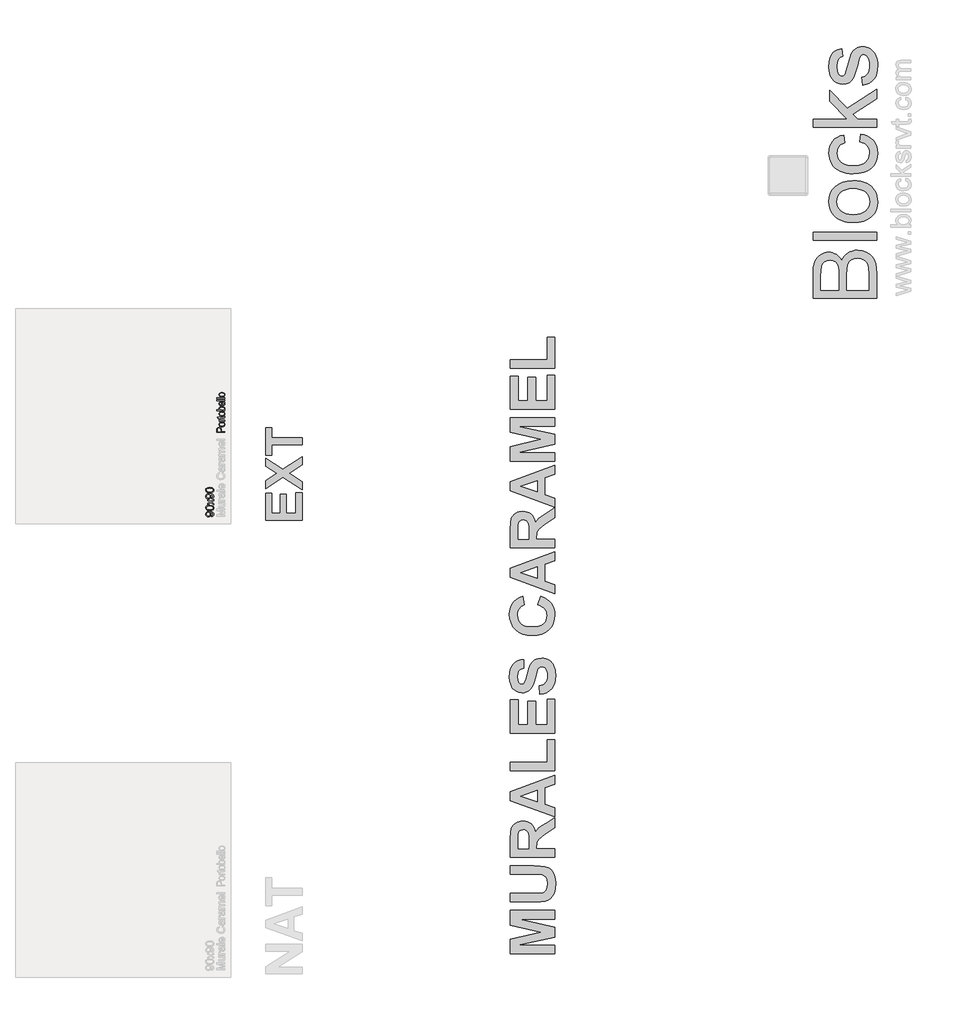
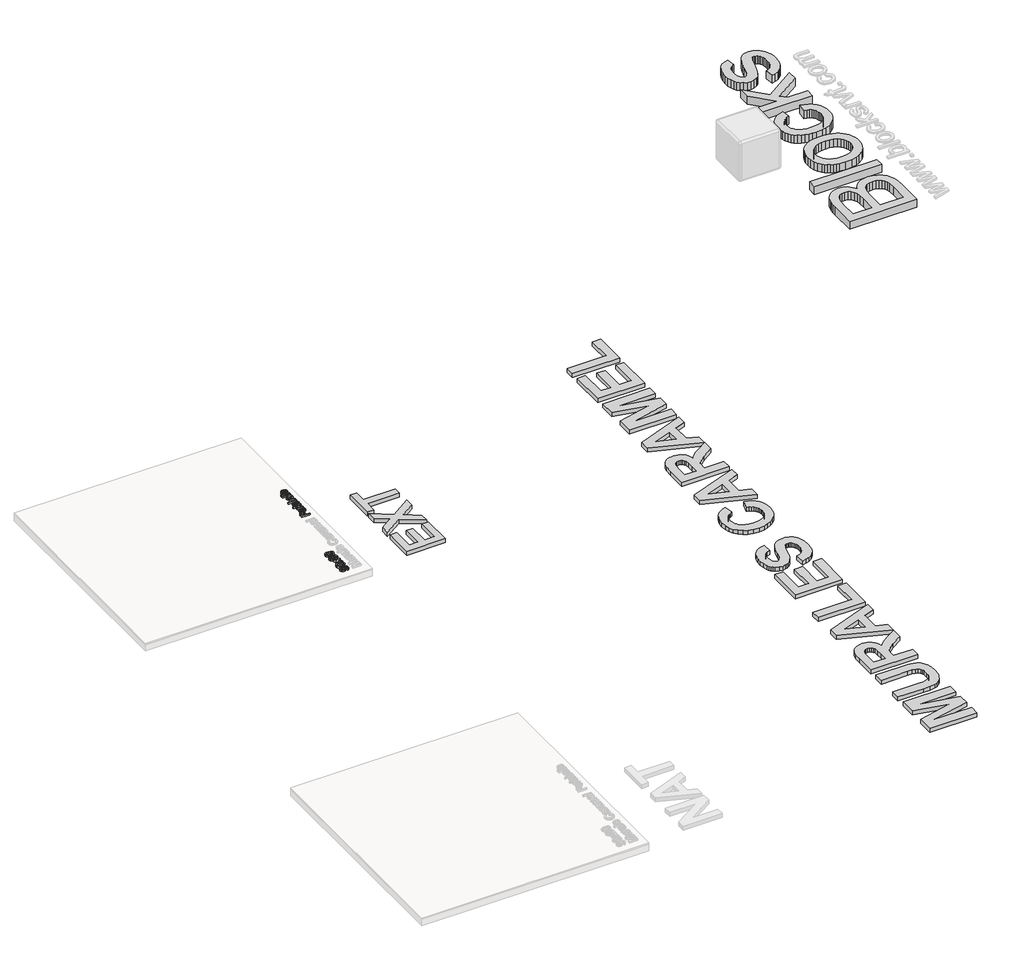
# One storey, part 20 of 21: 5 proxies.
"""IFC4 building model written with IfcOpenShell, lengths in millimetres."""

from ifc_helpers import new_model, si_unit, frame, origin, origin_with_axes, place, context, project, spatial, polyline, outline, extrude, element, save

model = new_model("IFC4")

# Units and contexts
model_context = context("Model", 3, world=origin())
ifc_project = project(units=[si_unit("LENGTHUNIT", "METRE", prefix="MILLI")], contexts=[model_context])

# Site, building, storey
site = spatial("IfcSite", under=ifc_project)
building = spatial("IfcBuilding", under=site)
storey = spatial("IfcBuildingStorey", under=building, Name="PORTOBELLO - SHOWROOM", Elevation=0.0)

# Proxies
placement = place(None, origin())
element("IfcBuildingElementProxy", 1, Name="10mm Arial", ObjectType="10mm Arial", at=placement, inside=storey, context=model_context, shape_type="SweptSolid", body=[
    extrude(outline(polyline([(28194.348432, 34966.7304206), (28192.7788021, 34979.2874593), (28204.7594925, 34984.9283166), (28208.4751006, 34995.6214199), (28206.0838676, 35005.7872257), (28199.6949837, 35012.6788818), (28188.7811511, 35016.7868974), (28174.2130241, 35018.6017819), (28171.7604775, 35018.5282055), (28181.2763584, 35008.485027), (28184.9306529, 34994.7139777), (28182.6988355, 34983.2636506), (28176.0033832, 34973.7324412), (28165.6597677, 34967.3037033), (28152.4834609, 34965.1607907), (28138.8718271, 34967.4079366), (28128.2032493, 34974.1493741), (28121.3054619, 34984.2753261), (28119.0061994, 34996.676015), (28124.2546492, 35014.5673427), (28139.2151837, 35026.8791268), (28167.3213681, 35031.0852443), (28197.8187855, 35026.8913895), (28207.8098473, 35021.6766622), (28215.0969765, 35014.4201899), (28219.5483487, 35005.4346721), (28221.0321394, 34995.0328087), (28219.2816342, 34984.2967858), (28214.0301187, 34975.7312667), (28205.6086867, 34969.7409216), (28194.348432, 34966.7304206)]), holes=[polyline([(28152.1891553, 35018.5282055), (28143.6788185, 35017.1731735), (28137.130519, 35013.1080774), (28132.9550584, 35006.7989012), (28131.5632382, 34998.7116287), (28133.0623573, 34990.3239192), (28137.5597147, 34983.6039414), (28144.4421737, 34979.1893575), (28153.0965976, 34977.7178295), (28160.855842, 34979.1096497), (28167.0147998, 34983.2851103), (28171.0339106, 34989.8395412), (28172.3736142, 34998.3682722), (28167.0147998, 35012.85056), (28160.6289815, 35017.1087941), (28152.1891553, 35018.5282055)])]), frame((0.0, 0.0, 18.0), z_axis=(0.0, 0.0, 1.0), x_axis=(1.0, 0.0, 0.0)), (0.0, 0.0, 1.0), 20.0),
    extrude(outline(polyline([(28170.0436948, 35042.0726532), (28141.1404328, 35045.7637359), (28124.4753784, 35056.7266193), (28119.0061994, 35075.0348799), (28122.2435609, 35089.7011088), (28131.5755009, 35099.8301264), (28146.4379335, 35105.7162383), (28170.0436948, 35107.9971067), (28198.8243296, 35104.3428122), (28215.5261722, 35093.416717), (28219.6556476, 35085.1853573), (28221.0321394, 35075.0348799), (28218.6409064, 35061.9873319), (28211.4672075, 35052.0790434), (28194.4771907, 35044.5742507), (28170.0436948, 35042.0726532)]), holes=[polyline([(28170.0191694, 35054.6296919), (28189.7713668, 35056.1012199), (28201.2032998, 35060.5158039), (28206.6571504, 35067.0886289), (28208.4751006, 35075.0348799), (28206.6510191, 35082.981131), (28201.1787744, 35089.553956), (28189.74071, 35093.96854), (28170.0191694, 35095.4400679), (28150.711496, 35094.0175909), (28139.1906582, 35089.7501598), (28133.4700932, 35083.1895975), (28131.5632382, 35074.8877271), (28133.2432326, 35067.0273152), (28138.2832159, 35060.7120076), (28150.5214236, 35056.1502709), (28170.0191694, 35054.6296919)])]), frame((0.0, 0.0, 18.0), z_axis=(0.0, 0.0, 1.0), x_axis=(1.0, 0.0, 0.0)), (0.0, 0.0, 1.0), 20.0),
    extrude(outline(polyline([(28219.4625095, 35114.2756261), (28182.355479, 35141.1064863), (28145.6899068, 35115.8452559), (28145.6899068, 35130.9038923), (28163.372768, 35143.0930491), (28171.6869011, 35148.8074827), (28164.8688214, 35153.7616269), (28145.6899068, 35167.6430409), (28145.6899068, 35182.7507281), (28182.3800044, 35156.2141735), (28219.4625095, 35181.7697095), (28219.4625095, 35166.6865477), (28197.1443352, 35151.2845548), (28193.0485823, 35148.4886516), (28219.4625095, 35129.3833134), (28219.4625095, 35114.2756261)])), frame((0.0, 0.0, 18.0), z_axis=(0.0, 0.0, 1.0), x_axis=(1.0, 0.0, 0.0)), (0.0, 0.0, 1.0), 20.0),
    extrude(outline(polyline([(28194.348432, 35191.1874886), (28192.7788021, 35203.7445273), (28204.7594925, 35209.3853846), (28208.4751006, 35220.0784879), (28206.0838676, 35230.2442937), (28199.6949837, 35237.1359498), (28188.7811511, 35241.2439654), (28174.2130241, 35243.0588499), (28171.7604775, 35242.9852735), (28181.2763584, 35232.942095), (28184.9306529, 35219.1710457), (28182.6988355, 35207.7207186), (28176.0033832, 35198.1895092), (28165.6597677, 35191.7607713), (28152.4834609, 35189.6178587), (28138.8718271, 35191.8650046), (28128.2032493, 35198.6064421), (28121.3054619, 35208.732394), (28119.0061994, 35221.133083), (28124.2546492, 35239.0244107), (28139.2151837, 35251.3361948), (28167.3213681, 35255.5423122), (28197.8187855, 35251.3484575), (28207.8098473, 35246.1337302), (28215.0969765, 35238.8772579), (28219.5483487, 35229.8917401), (28221.0321394, 35219.4898767), (28219.2816342, 35208.7538538), (28214.0301187, 35200.1883347), (28205.6086867, 35194.1979896), (28194.348432, 35191.1874886)]), holes=[polyline([(28152.1891553, 35242.9852735), (28143.6788185, 35241.6302415), (28137.130519, 35237.5651454), (28132.9550584, 35231.2559692), (28131.5632382, 35223.1686967), (28133.0623573, 35214.7809872), (28137.5597147, 35208.0610094), (28144.4421737, 35203.6464255), (28153.0965976, 35202.1748975), (28160.855842, 35203.5667177), (28167.0147998, 35207.7421783), (28171.0339106, 35214.2966092), (28172.3736142, 35222.8253401), (28167.0147998, 35237.307628), (28160.6289815, 35241.5658621), (28152.1891553, 35242.9852735)])]), frame((0.0, 0.0, 18.0), z_axis=(0.0, 0.0, 1.0), x_axis=(1.0, 0.0, 0.0)), (0.0, 0.0, 1.0), 20.0),
    extrude(outline(polyline([(28170.0436948, 35266.5297212), (28141.1404328, 35270.2208039), (28124.4753784, 35281.1836873), (28119.0061994, 35299.4919479), (28122.2435609, 35314.1581768), (28131.5755009, 35324.2871944), (28146.4379335, 35330.1733063), (28170.0436948, 35332.4541747), (28198.8243296, 35328.7998802), (28215.5261722, 35317.873785), (28219.6556476, 35309.6424253), (28221.0321394, 35299.4919479), (28218.6409064, 35286.4443998), (28211.4672075, 35276.5361114), (28194.4771907, 35269.0313187), (28170.0436948, 35266.5297212)]), holes=[polyline([(28170.0191694, 35279.0867599), (28189.7713668, 35280.5582879), (28201.2032998, 35284.9728719), (28206.6571504, 35291.5456968), (28208.4751006, 35299.4919479), (28206.6510191, 35307.438199), (28201.1787744, 35314.011024), (28189.74071, 35318.425608), (28170.0191694, 35319.8971359), (28150.711496, 35318.4746589), (28139.1906582, 35314.2072277), (28133.4700932, 35307.6466655), (28131.5632382, 35299.3447951), (28133.2432326, 35291.4843832), (28138.2832159, 35285.1690756), (28150.5214236, 35280.6073389), (28170.0191694, 35279.0867599)])]), frame((0.0, 0.0, 18.0), z_axis=(0.0, 0.0, 1.0), x_axis=(1.0, 0.0, 0.0)), (0.0, 0.0, 1.0), 20.0),
])
element("IfcBuildingElementProxy", 2, Name="10mm Arial Narrow", ObjectType="10mm Arial Narrow", at=placement, inside=storey, context=model_context, shape_type="SweptSolid", body=[
    extrude(outline(polyline([(28359.4625095, 36024.588476), (28258.7439058, 36024.588476), (28258.7439058, 36055.8853607), (28260.6222265, 36072.1810622), (28270.1026697, 36083.6540483), (28287.1217785, 36087.9437267), (28299.197604, 36086.1574183), (28308.8239978, 36080.7984931), (28315.1252562, 36071.0547043), (28317.2256757, 36056.1138051), (28317.2256757, 36034.3354376), (28359.4625095, 36034.3354376), (28359.4625095, 36024.588476)]), holes=[polyline([(28305.8542204, 36034.3354376), (28305.8542204, 36057.3067926), (28301.3234062, 36073.170988), (28287.6548155, 36078.1967651), (28277.4890391, 36075.7219506), (28271.6890892, 36069.7443218), (28270.115361, 36057.0783482), (28270.115361, 36034.3354376), (28305.8542204, 36034.3354376)])]), frame((0.0, 0.0, 18.0), z_axis=(0.0, 0.0, 1.0), x_axis=(1.0, 0.0, 0.0)), (0.0, 0.0, 1.0), 20.0),
    extrude(outline(polyline([(28322.9114033, 36096.0661948), (28306.3206278, 36098.0206637), (28294.368543, 36103.8840703), (28287.1439884, 36112.742637), (28284.7358035, 36123.6825861), (28287.1439884, 36134.4956217), (28294.368543, 36143.3795711), (28306.1302574, 36149.3191259), (28322.149922, 36151.2989775), (28339.3118085, 36149.3540271), (28351.4542637, 36143.5191761), (28358.6788183, 36134.6701279), (28361.0870031, 36123.6825861), (28358.6724726, 36112.821958), (28351.428881, 36103.9475271), (28339.4704505, 36098.0365278), (28322.9114033, 36096.0661948)]), holes=[polyline([(28322.8860206, 36105.8131564), (28335.437772, 36107.1171933), (28344.3090301, 36111.0293039), (28349.5822886, 36116.8705006), (28351.3400415, 36123.961796), (28349.5664244, 36130.6818691), (28344.2455733, 36136.3739424), (28335.358451, 36140.2574975), (28322.8860206, 36141.5520158), (28310.3723433, 36140.247979), (28301.5137766, 36136.3358684), (28296.240518, 36130.4946716), (28294.4827652, 36123.4033763), (28296.2500365, 36116.6357105), (28301.5518506, 36110.9531557), (28310.4199359, 36107.0981563), (28322.8860206, 36105.8131564)])]), frame((0.0, 0.0, 18.0), z_axis=(0.0, 0.0, 1.0), x_axis=(1.0, 0.0, 0.0)), (0.0, 0.0, 1.0), 20.0),
    extrude(outline(polyline([(28351.3400415, 36222.7766963), (28361.0870031, 36224.4011899), (28361.0870031, 36217.0402032), (28358.9675466, 36208.7654389), (28353.1675968, 36204.4503777), (28338.5217716, 36203.282773), (28296.1072588, 36203.282773), (28296.1072588, 36195.1603049), (28292.8582716, 36195.1603049), (28297.7317524, 36193.5358113), (28296.1072588, 36185.9717629), (28298.429777, 36179.8926033), (28304.9150601, 36176.0217396), (28320.3223666, 36174.041888), (28359.4625095, 36174.041888), (28359.4625095, 36164.2949264), (28286.3602971, 36164.2949264), (28286.3602971, 36174.041888), (28296.0564934, 36174.041888), (28286.9694822, 36180.2860353), (28284.7358035, 36186.6824789), (28286.3602971, 36195.1603049), (28286.3602971, 36203.282773), (28270.115361, 36203.282773), (28261.992893, 36213.0297346), (28286.3602971, 36213.0297346), (28286.3602971, 36222.7766963), (28296.1072588, 36222.7766963), (28296.1072588, 36213.0297346), (28340.7554503, 36213.0297346), (28348.7510048, 36213.8927468), (28351.3400415, 36218.5124006), (28351.3400415, 36222.7766963)])), frame((0.0, 0.0, 18.0), z_axis=(0.0, 0.0, 1.0), x_axis=(1.0, 0.0, 0.0)), (0.0, 0.0, 1.0), 20.0),
    extrude(outline(polyline([(28322.9114033, 36229.2746707), (28306.3206278, 36231.2291396), (28294.368543, 36237.0925462), (28287.1439884, 36245.9511129), (28284.7358035, 36256.8910621), (28287.1439884, 36267.7040976), (28294.368543, 36276.5880471), (28306.1302574, 36282.5276018), (28322.149922, 36284.5074534), (28339.3118085, 36282.5625031), (28351.4542637, 36276.727652), (28358.6788183, 36267.8786038), (28361.0870031, 36256.8910621), (28358.6724726, 36246.0304339), (28351.428881, 36237.156003), (28339.4704505, 36231.2450038), (28322.9114033, 36229.2746707)]), holes=[polyline([(28322.8860206, 36239.0216324), (28335.437772, 36240.3256692), (28344.3090301, 36244.2377798), (28349.5822886, 36250.0789766), (28351.3400415, 36257.1702719), (28349.5664244, 36263.8903451), (28344.2455733, 36269.5824184), (28335.358451, 36273.4659734), (28322.8860206, 36274.7604918), (28310.3723433, 36273.4564549), (28301.5137766, 36269.5443443), (28296.240518, 36263.7031476), (28294.4827652, 36256.6118522), (28296.2500365, 36249.8441865), (28301.5518506, 36244.1616317), (28310.4199359, 36240.3066322), (28322.8860206, 36239.0216324)])]), frame((0.0, 0.0, 18.0), z_axis=(0.0, 0.0, 1.0), x_axis=(1.0, 0.0, 0.0)), (0.0, 0.0, 1.0), 20.0),
    extrude(outline(polyline([(28359.4625095, 36307.2503639), (28359.4625095, 36297.5034023), (28258.7439058, 36297.5034023), (28258.7439058, 36307.2503639), (28294.1527899, 36307.2503639), (28287.0710131, 36314.6494247), (28284.7358035, 36323.850658), (28288.9366425, 36336.7323847), (28301.6660729, 36346.0097661), (28322.3529837, 36349.4871978), (28338.8073271, 36347.5549388), (28351.0100662, 36341.7581618), (28358.5677689, 36333.3850394), (28361.0870031, 36323.7237444), (28358.4725837, 36314.3829062), (28350.7054737, 36307.2503639), (28359.4625095, 36307.2503639)]), holes=[polyline([(28322.3529837, 36307.2503639), (28339.6005369, 36309.3317464), (28348.33219, 36315.2205357), (28351.3400415, 36323.672979), (28349.5505602, 36329.6157066), (28344.1821165, 36334.8540639), (28322.7591071, 36339.7402361), (28301.3234062, 36335.0317429), (28296.1929254, 36329.7870399), (28294.4827652, 36323.4699173), (28296.2722464, 36317.4922885), (28301.6406901, 36312.1999929), (28322.3529837, 36307.2503639)])]), frame((0.0, 0.0, 18.0), z_axis=(0.0, 0.0, 1.0), x_axis=(1.0, 0.0, 0.0)), (0.0, 0.0, 1.0), 20.0),
    extrude(outline(polyline([(28336.719599, 36401.4709933), (28338.3440926, 36411.2179549), (28348.2306592, 36407.5184245), (28355.3505101, 36401.6994377), (28359.6528799, 36393.9957844), (28361.0870031, 36384.6422548), (28358.6724726, 36373.0487008), (28351.428881, 36363.9045785), (28339.6227468, 36357.9650238), (28323.5205884, 36355.9851722), (28306.8536647, 36357.9745423), (28294.6731355, 36363.9426526), (28287.2201365, 36372.9566884), (28284.7358035, 36384.0838351), (28287.1344699, 36394.7667843), (28294.3304689, 36403.5143016), (28306.0699735, 36409.3491527), (28322.0991565, 36411.294103), (28325.3481437, 36411.2179549), (28325.3481437, 36365.7321339), (28344.7913016, 36371.7351454), (28349.7028565, 36377.6651816), (28351.3400415, 36384.7691683), (28347.6849309, 36394.9476361), (28336.719599, 36401.4709933)]), holes=[polyline([(28315.6011821, 36366.3920844), (28315.6011821, 36401.4709933), (28301.3360976, 36397.2066975), (28296.1960983, 36391.381365), (28294.4827652, 36384.1599832), (28300.1938755, 36371.9508985), (28315.6011821, 36366.3920844)])]), frame((0.0, 0.0, 18.0), z_axis=(0.0, 0.0, 1.0), x_axis=(1.0, 0.0, 0.0)), (0.0, 0.0, 1.0), 20.0),
    extrude(outline(polyline([(28359.4625095, 36424.2139038), (28258.7439058, 36424.2139038), (28258.7439058, 36433.9608654), (28359.4625095, 36433.9608654), (28359.4625095, 36424.2139038)])), frame((0.0, 0.0, 18.0), z_axis=(0.0, 0.0, 1.0), x_axis=(1.0, 0.0, 0.0)), (0.0, 0.0, 1.0), 20.0),
    extrude(outline(polyline([(28359.4625095, 36450.2058015), (28258.7439058, 36450.2058015), (28258.7439058, 36459.9527632), (28359.4625095, 36459.9527632), (28359.4625095, 36450.2058015)])), frame((0.0, 0.0, 18.0), z_axis=(0.0, 0.0, 1.0), x_axis=(1.0, 0.0, 0.0)), (0.0, 0.0, 1.0), 20.0),
    extrude(outline(polyline([(28322.9114033, 36471.3242184), (28306.3206278, 36473.2786873), (28294.368543, 36479.1420939), (28287.1439884, 36488.0006606), (28284.7358035, 36498.9406098), (28287.1439884, 36509.7536454), (28294.368543, 36518.6375948), (28306.1302574, 36524.5771496), (28322.149922, 36526.5570011), (28339.3118085, 36524.6120508), (28351.4542637, 36518.7771997), (28358.6788183, 36509.9281515), (28361.0870031, 36498.9406098), (28358.6724726, 36488.0799816), (28351.428881, 36479.2055507), (28339.4704505, 36473.2945515), (28322.9114033, 36471.3242184)]), holes=[polyline([(28322.8860206, 36481.0711801), (28335.437772, 36482.375217), (28344.3090301, 36486.2873275), (28349.5822886, 36492.1285243), (28351.3400415, 36499.2198196), (28349.5664244, 36505.9398928), (28344.2455733, 36511.6319661), (28335.358451, 36515.5155211), (28322.8860206, 36516.8100395), (28310.3723433, 36515.5060026), (28301.5137766, 36511.593892), (28296.240518, 36505.7526953), (28294.4827652, 36498.6614), (28296.2500365, 36491.8937342), (28301.5518506, 36486.2111794), (28310.4199359, 36482.3561799), (28322.8860206, 36481.0711801)])]), frame((0.0, 0.0, 18.0), z_axis=(0.0, 0.0, 1.0), x_axis=(1.0, 0.0, 0.0)), (0.0, 0.0, 1.0), 20.0),
])
element("IfcBuildingElementProxy", 3, Name="450mm Arial", ObjectType="450mm Arial", at=placement, inside=storey, context=model_context, shape_type="SweptSolid", body=[
    extrude(outline(polyline([(29329.6729671, 34919.1171638), (28870.5562371, 34919.1171638), (28870.5562371, 35261.6328195), (28950.7194757, 35261.6328195), (28950.7194757, 35006.5679695), (29052.7454157, 35006.5679695), (29052.7454157, 35247.0576852), (29132.9086542, 35247.0576852), (29132.9086542, 35006.5679695), (29249.5097285, 35006.5679695), (29249.5097285, 35268.9203867), (29329.6729671, 35268.9203867), (29329.6729671, 34919.1171638)])), origin_with_axes(), (0.0, 0.0, 1.0), 50.0),
    extrude(outline(polyline([(29329.6729671, 35301.7144388), (29088.8416467, 35458.2832641), (28870.5562371, 35316.2895731), (28870.5562371, 35418.5432496), (29010.2725634, 35509.4101024), (28870.5562371, 35600.163087), (28870.5562371, 35702.5306317), (29088.9555149, 35560.5369406), (29329.6729671, 35717.1057659), (29329.6729671, 35614.8520895), (29167.6384664, 35509.4101024), (29329.6729671, 35404.0819835), (29329.6729671, 35301.7144388)])), origin_with_axes(), (0.0, 0.0, 1.0), 50.0),
    extrude(outline(polyline([(29329.6729671, 35866.5008924), (28950.7194757, 35866.5008924), (28950.7194757, 35735.3246838), (28870.5562371, 35735.3246838), (28870.5562371, 36085.1279066), (28950.7194757, 36085.1279066), (28950.7194757, 35953.9516981), (29329.6729671, 35953.9516981), (29329.6729671, 35866.5008924)])), origin_with_axes(), (0.0, 0.0, 1.0), 50.0),
])
element("IfcBuildingElementProxy", 4, Name="550mm Arial", ObjectType="550mm Arial", at=placement, inside=storey, context=model_context, shape_type="SweptSolid", body=[
    extrude(outline(polyline([(32506.24187, 29473.3939829), (31945.0992, 29473.3939829), (31945.0992, 29656.2663709), (32327.8229952, 29745.0582914), (31945.0992, 29833.5718673), (31945.0992, 30016.7225999), (32506.24187, 30016.7225999), (32506.24187, 29909.8382818), (32064.5090241, 29905.3847686), (32506.24187, 29807.6858215), (32506.24187, 29682.7091059), (32064.5090241, 29584.7318143), (32506.24187, 29580.278301), (32506.24187, 29473.3939829)])), origin_with_axes(), (0.0, 0.0, 1.0), 50.0),
    extrude(outline(polyline([(31945.0992, 30123.606918), (31945.0992, 30230.4912361), (32247.798929, 30230.4912361), (32307.2254964, 30231.6394075), (32341.3227073, 30235.0839216), (32372.2015589, 30248.4792545), (32396.3653477, 30272.799612), (32405.4680852, 30289.056675), (32411.9700406, 30308.0449942), (32417.1716049, 30354.2154012), (32412.2657817, 30400.3336185), (32406.1335027, 30418.5260462), (32397.5483121, 30433.4740198), (32375.6808662, 30454.8195697), (32349.3251139, 30465.5532325), (32311.2788894, 30469.624022), (32254.3400265, 30470.9809518), (31945.0992, 30470.9809518), (31945.0992, 30577.8652699), (32239.4485916, 30577.8652699), (32325.6310317, 30575.534134), (32382.100188, 30568.5407265), (32420.4943433, 30555.284566), (32452.4517802, 30534.1651711), (32478.2508433, 30504.8868007), (32498.1698772, 30467.1537138), (32510.9041416, 30418.7739468), (32515.1488965, 30357.5555361), (32510.5214179, 30285.8470141), (32504.7370696, 30257.3775827), (32496.638982, 30233.831371), (32475.3456218, 30196.0808876), (32448.48537, 30167.1678445), (32418.1110178, 30146.8486903), (32386.2753567, 30134.8798734), (32326.6400308, 30126.4251568), (32244.0412771, 30123.606918), (31945.0992, 30123.606918)])), origin_with_axes(), (0.0, 0.0, 1.0), 50.0),
    extrude(outline(polyline([(32506.24187, 30684.749588), (31945.0992, 30684.749588), (31945.0992, 30920.7857904), (31948.8916449, 30997.6784802), (31960.2689795, 31050.2160194), (31969.3325748, 31069.3870022), (31981.3535813, 31086.5399868), (31996.3319989, 31101.6749733), (32014.2678277, 31114.7919615), (32034.3869218, 31125.386452), (32055.9151352, 31132.9539453), (32078.8524682, 31137.4944412), (32103.1989205, 31139.0079398), (32133.5471778, 31136.8203254), (32161.1293859, 31130.2574822), (32185.9455447, 31119.3194101), (32207.9956542, 31104.0061091), (32226.7491202, 31084.3349759), (32241.6753482, 31060.3234069), (32252.7743383, 31031.9714021), (32260.0460904, 30999.2789615), (32282.3832428, 31030.2795889), (32306.8079796, 31055.3653941), (32342.1925341, 31081.321026), (32397.4091398, 31114.9311338), (32506.24187, 31183.5430724), (32506.24187, 31058.705529), (32378.0641916, 30977.4289121), (32302.0065356, 30913.6184175), (32288.8025647, 30895.9087437), (32280.5044169, 30877.1552778), (32276.1204898, 30852.2608345), (32274.6591808, 30816.1282289), (32274.6591808, 30791.6339061), (32506.24187, 30791.6339061), (32506.24187, 30684.749588)]), holes=[polyline([(32176.6818892, 30791.6339061), (32176.6818892, 30879.7299651), (32175.0640113, 30949.2639201), (32170.2103777, 30986.6838693), (32161.4077304, 31005.7156799), (32147.9428115, 31020.0852187), (32130.1809481, 31029.114021), (32108.4874675, 31032.1236218), (32084.4628511, 31028.1572115), (32065.5528163, 31016.2579808), (32052.209673, 30997.121791), (32044.8857313, 30971.4445037), (32043.0764916, 30884.6009952), (32043.0764916, 30791.6339061), (32176.6818892, 30791.6339061)])]), origin_with_axes(), (0.0, 0.0, 1.0), 50.0),
    extrude(outline(polyline([(32506.24187, 31717.9646628), (32506.24187, 31605.6526255), (32381.5434989, 31561.6741821), (32381.5434989, 31349.853958), (32506.24187, 31306.4322037), (32506.24187, 31192.4500989), (31945.0992, 31397.033364), (31945.0992, 31511.1546411), (32506.24187, 31717.9646628)]), holes=[polyline([(32283.5662073, 31527.437799), (32078.7045976, 31455.2073809), (32283.5662073, 31383.9511688), (32283.5662073, 31527.437799)])]), origin_with_axes(), (0.0, 0.0, 1.0), 50.0),
    extrude(outline(polyline([(32506.24187, 31771.4068219), (31945.0992, 31771.4068219), (31945.0992, 31878.29114), (32408.2645784, 31878.29114), (32408.2645784, 32163.3159882), (32506.24187, 32163.3159882), (32506.24187, 31771.4068219)])), origin_with_axes(), (0.0, 0.0, 1.0), 50.0),
    extrude(outline(polyline([(32506.24187, 32243.4792268), (31945.0992, 32243.4792268), (31945.0992, 32662.1094726), (32043.0764916, 32662.1094726), (32043.0764916, 32350.3635449), (32167.7748627, 32350.3635449), (32167.7748627, 32644.2954196), (32265.7521543, 32644.2954196), (32265.7521543, 32350.3635449), (32408.2645784, 32350.3635449), (32408.2645784, 32671.0164991), (32506.24187, 32671.0164991), (32506.24187, 32243.4792268)])), origin_with_axes(), (0.0, 0.0, 1.0), 50.0),
    extrude(outline(polyline([(32319.1943133, 32733.3656847), (32310.2872868, 32840.2500028), (32336.0167638, 32846.7215142), (32358.0929681, 32855.8372992), (32376.5158999, 32867.5973576), (32391.2855591, 32882.0016895), (32402.6107041, 32899.0937863), (32410.7000934, 32918.9171393), (32415.553727, 32941.4717484), (32417.1716049, 32966.7576137), (32415.7407398, 32993.3308226), (32411.4481445, 33016.4073278), (32404.293819, 33035.9871293), (32394.2777633, 33052.0702269), (32382.3480887, 33064.6131295), (32369.4529062, 33073.5723456), (32355.5922161, 33078.9478753), (32340.7660181, 33080.7397185), (32322.5866379, 33077.7649108), (32307.2950826, 33068.8404878), (32294.3694562, 33052.4703473), (32283.2878627, 33027.1583872), (32259.4894012, 32934.4696426), (32247.8772134, 32891.4480087), (32234.8906991, 32855.3501962), (32220.5298585, 32826.176205), (32204.7946916, 32803.9260353), (32180.4308427, 32780.8495301), (32153.5444961, 32764.3663121), (32124.1356517, 32754.4763813), (32092.2043096, 32751.1797377), (32050.8701398, 32757.2337323), (32012.3194157, 32775.395716), (31994.8445951, 32788.8432385), (31979.5791346, 32804.9698275), (31966.5230343, 32823.7754831), (31955.676294, 32845.2602052), (31941.0632036, 32895.6057808), (31936.1921735, 32955.3454859), (31939.227869, 33004.764696), (31948.3349557, 33047.6689033), (31963.5134335, 33084.0581078), (31984.7633024, 33113.9323095), (32011.0755633, 33137.3871893), (32041.4412172, 33154.5184283), (32075.8602639, 33165.3260264), (32114.3327036, 33169.8099836), (32114.3327036, 33062.9256655), (32077.6086158, 33051.1134174), (32063.7479256, 33041.9845851), (32052.888138, 33030.7072805), (32044.6987186, 33016.8117973), (32038.8491333, 32999.8284289), (32034.1694651, 32956.5980365), (32039.1448744, 32911.088698), (32045.3641361, 32892.5091974), (32054.0711024, 32876.7131426), (32069.0321235, 32862.7263275), (32088.3074856, 32858.0640558), (32106.5042624, 32862.3088106), (32121.8480072, 32875.0430751), (32130.7593829, 32889.6779111), (32139.8186291, 32912.0107144), (32158.3807332, 32979.7702227), (32177.6908883, 33052.0876235), (32197.9056633, 33102.7289402), (32222.3825896, 33138.2178739), (32254.4791988, 33165.0781257), (32273.4849146, 33174.9419617), (32294.5956112, 33181.9875589), (32343.131947, 33187.6240366), (32366.686857, 33185.9583183), (32389.4763193, 33180.9611632), (32411.5003341, 33172.6325716), (32432.7589013, 33160.9725432), (32452.2952114, 33146.2637719), (32469.1524549, 33128.7889513), (32483.3306319, 33108.5480815), (32494.8297422, 33085.5411625), (32503.7193722, 33059.6507676), (32510.0691079, 33030.7594701), (32515.1488965, 32963.9741679), (32512.0218691, 32914.0287126), (32502.640787, 32870.2416311), (32487.0056501, 32832.6129234), (32465.1164585, 32801.1425895), (32437.2341602, 32775.6131727), (32403.6197032, 32755.8072163), (32364.2730876, 32741.7247203), (32319.1943133, 32733.3656847)])), origin_with_axes(), (0.0, 0.0, 1.0), 50.0),
    extrude(outline(polyline([(32292.4732338, 33855.6510247), (32328.1013398, 33962.5353427), (32370.3618752, 33947.7743818), (32406.8206659, 33928.8208557), (32437.4777117, 33905.6747643), (32462.3330127, 33878.3361078), (32481.5431378, 33846.9179635), (32495.2646557, 33811.533409), (32503.4975664, 33772.1824442), (32506.24187, 33728.8650692), (32501.5535035, 33675.3446258), (32487.488404, 33626.8169882), (32464.0465715, 33583.2821565), (32431.2280061, 33544.7401306), (32390.27656, 33513.2002106), (32342.4360856, 33490.6716963), (32287.7065829, 33477.1545877), (32226.0880518, 33472.6488848), (32161.1119893, 33477.1937299), (32103.8251958, 33490.8282651), (32054.2276712, 33513.5524904), (32012.3194157, 33545.3664059), (31979.0137472, 33584.5912458), (31955.223984, 33629.5482443), (31940.9501261, 33680.2374015), (31936.1921735, 33736.6587174), (31940.1150924, 33785.9952939), (31951.8838491, 33830.4608403), (31971.4984436, 33870.0553566), (31998.9588759, 33904.7788427), (32019.4954868, 33922.8451455), (32044.0854907, 33938.4933298), (32072.7288874, 33951.7233955), (32105.4256771, 33962.5353427), (32123.2397301, 33855.6510247), (32103.6642778, 33848.914216), (32086.2720908, 33839.2808841), (32071.0631691, 33826.751029), (32058.0375127, 33811.3246506), (32047.5952418, 33793.5410415), (32040.136477, 33773.9394944), (32035.661218, 33752.5200092), (32034.1694651, 33729.2825861), (32036.8789756, 33697.5208602), (32045.0075071, 33668.8992091), (32058.5550596, 33643.4176328), (32077.5216331, 33621.0761312), (32102.5508995, 33602.9011001), (32134.2865306, 33589.918935), (32172.7285263, 33582.1296359), (32217.8768868, 33579.5332029), (32265.6651716, 33582.0513515), (32306.042532, 33589.6057973), (32339.008968, 33602.1965404), (32364.5644796, 33619.8235806), (32383.6832728, 33641.4866173), (32397.3395537, 33666.1853495), (32405.5333222, 33693.9197772), (32408.2645784, 33724.6899005), (32406.5205756, 33747.5967895), (32401.2885674, 33768.8597058), (32392.5685536, 33788.4786495), (32380.3605344, 33806.4536204), (32364.4035616, 33822.3931967), (32344.4366873, 33835.9059561), (32320.4599113, 33846.9918988), (32292.4732338, 33855.6510247)])), origin_with_axes(), (0.0, 0.0, 1.0), 50.0),
    extrude(outline(polyline([(32506.24187, 34523.6780127), (32506.24187, 34411.3659754), (32381.5434989, 34367.387532), (32381.5434989, 34155.5673078), (32506.24187, 34112.1455536), (32506.24187, 33998.1634488), (31945.0992, 34202.7467139), (31945.0992, 34316.867991), (32506.24187, 34523.6780127)]), holes=[polyline([(32283.5662073, 34333.1511488), (32078.7045976, 34260.9207307), (32283.5662073, 34189.6645187), (32283.5662073, 34333.1511488)])]), origin_with_axes(), (0.0, 0.0, 1.0), 50.0),
    extrude(outline(polyline([(32506.24187, 34577.1201718), (31945.0992, 34577.1201718), (31945.0992, 34813.1563742), (31948.8916449, 34890.049064), (31960.2689795, 34942.5866032), (31969.3325748, 34961.757586), (31981.3535813, 34978.9105706), (31996.3319989, 34994.0455571), (32014.2678277, 35007.1625453), (32034.3869218, 35017.7570358), (32055.9151352, 35025.3245291), (32078.8524682, 35029.865025), (32103.1989205, 35031.3785237), (32133.5471778, 35029.1909092), (32161.1293859, 35022.628066), (32185.9455447, 35011.6899939), (32207.9956542, 34996.3766929), (32226.7491202, 34976.7055597), (32241.6753482, 34952.6939907), (32252.7743383, 34924.3419859), (32260.0460904, 34891.6495453), (32282.3832428, 34922.6501727), (32306.8079796, 34947.7359779), (32342.1925341, 34973.6916098), (32397.4091398, 35007.3017176), (32506.24187, 35075.9136562), (32506.24187, 34951.0761128), (32378.0641916, 34869.7994959), (32302.0065356, 34805.9890013), (32288.8025647, 34788.2793275), (32280.5044169, 34769.5258616), (32276.1204898, 34744.6314183), (32274.6591808, 34708.4988128), (32274.6591808, 34684.0044899), (32506.24187, 34684.0044899), (32506.24187, 34577.1201718)]), holes=[polyline([(32176.6818892, 34684.0044899), (32176.6818892, 34772.1005489), (32175.0640113, 34841.6345039), (32170.2103777, 34879.0544531), (32161.4077304, 34898.0862637), (32147.9428115, 34912.4558025), (32130.1809481, 34921.4846048), (32108.4874675, 34924.4942056), (32084.4628511, 34920.5277953), (32065.5528163, 34908.6285646), (32052.209673, 34889.4923748), (32044.8857313, 34863.8150875), (32043.0764916, 34776.971579), (32043.0764916, 34684.0044899), (32176.6818892, 34684.0044899)])]), origin_with_axes(), (0.0, 0.0, 1.0), 50.0),
    extrude(outline(polyline([(32506.24187, 35610.3352466), (32506.24187, 35498.0232093), (32381.5434989, 35454.0447659), (32381.5434989, 35242.2245418), (32506.24187, 35198.8027875), (32506.24187, 35084.8206827), (31945.0992, 35289.4039478), (31945.0992, 35403.5252249), (32506.24187, 35610.3352466)]), holes=[polyline([(32283.5662073, 35419.8083828), (32078.7045976, 35347.5779647), (32283.5662073, 35276.3217526), (32283.5662073, 35419.8083828)])]), origin_with_axes(), (0.0, 0.0, 1.0), 50.0),
    extrude(outline(polyline([(32506.24187, 35663.7774057), (31945.0992, 35663.7774057), (31945.0992, 35846.6497937), (32327.8229952, 35935.4417142), (31945.0992, 36023.9552901), (31945.0992, 36207.1060227), (32506.24187, 36207.1060227), (32506.24187, 36100.2217046), (32064.5090241, 36095.7681913), (32506.24187, 35998.0692443), (32506.24187, 35873.0925286), (32064.5090241, 35775.115237), (32506.24187, 35770.6617238), (32506.24187, 35663.7774057)])), origin_with_axes(), (0.0, 0.0, 1.0), 50.0),
    extrude(outline(polyline([(32506.24187, 36313.9903407), (31945.0992, 36313.9903407), (31945.0992, 36732.6205866), (32043.0764916, 36732.6205866), (32043.0764916, 36420.8746588), (32167.7748627, 36420.8746588), (32167.7748627, 36714.8065336), (32265.7521543, 36714.8065336), (32265.7521543, 36420.8746588), (32408.2645784, 36420.8746588), (32408.2645784, 36741.5276131), (32506.24187, 36741.5276131), (32506.24187, 36313.9903407)])), origin_with_axes(), (0.0, 0.0, 1.0), 50.0),
    extrude(outline(polyline([(32506.24187, 36830.5978782), (31945.0992, 36830.5978782), (31945.0992, 36937.4821963), (32408.2645784, 36937.4821963), (32408.2645784, 37222.5070445), (32506.24187, 37222.5070445), (32506.24187, 36830.5978782)])), origin_with_axes(), (0.0, 0.0, 1.0), 50.0),
])
element("IfcBuildingElementProxy", 5, Name="80mm Arial", ObjectType="80mm Arial", at=placement, inside=storey, context=model_context, shape_type="SweptSolid", body=[
    extrude(outline(polyline([(36549.5235049, 37712.6052266), (35750.1348066, 37712.6052266), (35750.1348066, 38017.6453964), (35751.6046298, 38061.892566), (35756.0140997, 38101.5412013), (35763.363216, 38136.5913024), (35773.651979, 38167.0428692), (35786.9901678, 38193.670456), (35803.4875618, 38217.248617), (35823.144161, 38237.777352), (35845.9599655, 38255.2566611), (35870.6481174, 38269.2169328), (35895.9217591, 38279.1885555), (35921.7808906, 38285.171529), (35948.2255118, 38287.1658536), (35972.6514132, 38285.4886693), (35996.35765, 38280.4571166), (36019.3442223, 38272.0711955), (36041.61113, 38260.3309058), (36062.4631042, 38245.1996546), (36081.2048757, 38226.6408487), (36097.8364445, 38204.6544881), (36112.3578105, 38179.2405728), (36125.21419, 38209.3993947), (36141.9250439, 38235.8623125), (36162.490372, 38258.6293262), (36186.9101745, 38277.7004356), (36214.4403913, 38292.7706983), (36244.3369627, 38303.5351717), (36276.5998885, 38309.9938557), (36311.2291688, 38312.1467504), (36366.9726739, 38306.2674573), (36418.6665415, 38288.629578), (36462.627065, 38262.3069338), (36495.170538, 38230.373346), (36518.7365012, 38191.2675084), (36535.7644953, 38143.4281152), (36546.0837525, 38085.2938602), (36549.5235049, 38015.3034374), (36549.5235049, 37712.6052266)]), holes=[polyline([(36074.8864653, 37812.5288139), (36074.8864653, 37995.0064587), (36072.7396694, 38058.8248435), (36066.299282, 38101.5655967), (36051.4912699, 38138.8661741), (36029.3158449, 38165.6767264), (36000.1145426, 38181.8508813), (35964.2288989, 38187.2422663), (35929.3922576, 38182.2168124), (35899.0443712, 38167.1404509), (35875.356431, 38142.696253), (35860.4996281, 38109.5672902), (35852.6687024, 38058.7272619), (35850.0583939, 37981.1498675), (35850.0583939, 37812.5288139), (36074.8864653, 37812.5288139)]), polyline([(36449.5999176, 37812.5288139), (36449.5999176, 38017.4502332), (36445.6966525, 38091.6122706), (36437.036283, 38126.03419), (36423.9359494, 38154.3572576), (36405.1758814, 38177.3865218), (36379.5363086, 38195.9270312), (36348.1638151, 38208.1491301), (36312.2049851, 38212.2231631), (36270.4400482, 38207.4416633), (36234.530009, 38193.097164), (36219.2645831, 38182.0521434), (36206.4508955, 38168.0430809), (36196.0889464, 38151.0699765), (36188.1787356, 38131.1328301), (36178.1522233, 38078.8534727), (36174.8100526, 38007.6920704), (36174.8100526, 37812.5288139), (36449.5999176, 37812.5288139)])]), origin_with_axes(), (0.0, 0.0, 1.0), 100.0),
    extrude(outline(polyline([(36549.5235049, 38437.0512345), (35750.1348066, 38437.0512345), (35750.1348066, 38536.9748218), (36549.5235049, 38536.9748218), (36549.5235049, 38437.0512345)])), origin_with_axes(), (0.0, 0.0, 1.0), 100.0),
    extrude(outline(polyline([(36255.9979672, 38661.8793059), (36179.9696812, 38667.2828886), (36145.8984458, 38674.0373669), (36114.4558155, 38683.4936366), (36085.6417904, 38695.6516976), (36059.4563703, 38710.5115499), (36035.8995554, 38728.0731935), (36014.9713455, 38748.3366285), (35986.5384986, 38786.4178589), (35966.2293223, 38828.4511453), (35954.0438164, 38874.4364876), (35949.9819812, 38924.3738858), (35954.9281499, 38979.5014069), (35969.7666563, 39029.3473224), (35994.4975002, 39073.9116322), (36029.1206816, 39113.1943364), (36072.4652211, 39145.2560001), (36123.3601391, 39168.1571885), (36181.8054355, 39181.8979015), (36247.8011105, 39186.4781392), (36301.2880404, 39184.4533204), (36348.7493049, 39178.3788641), (36390.1849037, 39168.2547701), (36425.5948371, 39154.0810386), (36456.1805787, 39136.0345363), (36483.1436023, 39114.2921297), (36506.483908, 39088.853819), (36526.2014958, 39059.7196042), (36541.8694459, 39028.0238715), (36553.0608389, 38994.9010076), (36559.7756747, 38960.3510124), (36562.0139533, 38924.3738858), (36557.0860811, 38868.4413163), (36542.3024644, 38818.1318881), (36517.6631033, 38773.4456012), (36483.1679977, 38734.3824557), (36439.4026375, 38702.6623277), (36386.9525123, 38680.0050934), (36325.8176222, 38666.4107528), (36255.9979672, 38661.8793059)]), holes=[polyline([(36255.802804, 38761.8028932), (36304.2703789, 38764.6937489), (36346.2365779, 38773.3663162), (36381.7014009, 38787.8205948), (36410.664848, 38808.056585), (36433.1635121, 38832.6715507), (36449.2339865, 38860.2627561), (36458.8762711, 38890.8302011), (36462.090366, 38924.3738858), (36458.8579746, 38957.7468027), (36449.1608003, 38988.1922707), (36432.9988431, 39015.7102898), (36410.3721031, 39040.3008601), (36381.12201, 39060.5368503), (36345.0899938, 39074.991129), (36302.2760544, 39083.6636962), (36252.6801919, 39086.5545519), (36205.7495276, 39083.6453996), (36164.8811219, 39074.9179427), (36130.0749749, 39060.3721813), (36101.3310865, 39040.0081153), (36078.8324224, 39015.3260622), (36062.761948, 38987.8263396), (36053.1196633, 38957.5089475), (36049.9055684, 38924.3738858), (36053.1074656, 38890.8302011), (36062.7131571, 38860.2627561), (36078.722643, 38832.6715507), (36101.1359233, 38808.056585), (36130.0139864, 38787.8205948), (36165.4178208, 38773.3663162), (36207.3474267, 38764.6937489), (36255.802804, 38761.8028932)])]), origin_with_axes(), (0.0, 0.0, 1.0), 100.0),
    extrude(outline(polyline([(36337.1858819, 39673.6056273), (36349.6763303, 39773.5292146), (36396.8265533, 39762.6610607), (36438.5487982, 39745.6696597), (36474.8430651, 39722.5550115), (36505.7093538, 39693.3171162), (36530.3426161, 39659.1879417), (36547.9378035, 39621.3994562), (36558.4949159, 39579.9516596), (36562.0139533, 39534.8445519), (36557.1043777, 39478.8022031), (36542.3756506, 39428.5537634), (36517.8277723, 39384.0992329), (36483.4607426, 39345.4386116), (36439.9210399, 39314.1454032), (36387.8551424, 39291.7931115), (36327.2630501, 39278.3817364), (36258.1447631, 39273.9112781), (36212.2021127, 39275.8202187), (36169.2235043, 39281.5470405), (36129.2089379, 39291.0917435), (36092.1584135, 39304.4543277), (36058.8159909, 39321.7262759), (36029.9257301, 39342.9990709), (36005.4876311, 39368.2727126), (35985.5016938, 39397.547201), (35969.9618195, 39429.4990854), (35958.8619093, 39462.8049149), (35952.2019632, 39497.4646895), (35949.9819812, 39533.4784091), (35953.031407, 39577.8109626), (35962.1796847, 39617.910913), (35977.4268141, 39653.7782602), (35998.7727953, 39685.4130043), (36025.7297201, 39712.2784463), (36057.8096803, 39733.8378873), (36095.0126761, 39750.0913272), (36137.3387073, 39761.0387661), (36149.8291557, 39661.1151788), (36126.48885, 39653.3147474), (36106.2345633, 39642.9893914), (36089.0662956, 39630.1391107), (36074.9840469, 39614.7639054), (36064.0122126, 39597.254102), (36056.1751881, 39578.000027), (36051.4729733, 39557.0016804), (36049.9055684, 39534.2590622), (36052.9915874, 39500.3067544), (36062.2496444, 39469.6844197), (36077.6797394, 39442.3920581), (36099.2818723, 39418.4296695), (36127.5561491, 39398.9194427), (36163.0026755, 39384.9835664), (36205.6214517, 39376.6220406), (36255.4124775, 39373.8348654), (36305.953662, 39376.5610521), (36349.0664451, 39384.7396123), (36384.7508268, 39398.370546), (36413.006807, 39417.4538532), (36434.4808641, 39440.9405313), (36449.8194763, 39467.7815779), (36459.0226436, 39497.976993), (36462.090366, 39531.5267766), (36460.1753266, 39558.5629864), (36454.4302082, 39583.2694349), (36444.8550109, 39605.6461221), (36431.4497348, 39625.6930478), (36414.0680072, 39642.8491178), (36392.5634559, 39656.5532377), (36366.9360808, 39666.8054075), (36337.1858819, 39673.6056273)])), origin_with_axes(), (0.0, 0.0, 1.0), 100.0),
    extrude(outline(polyline([(36549.5235049, 39860.9623534), (35750.1348066, 39860.9623534), (35750.1348066, 39960.8859407), (36179.689134, 39960.8859407), (35962.4724296, 40184.9333591), (35962.4724296, 40323.1089447), (36182.4214196, 40096.1340774), (36549.5235049, 40335.5993931), (36549.5235049, 40218.8917657), (36251.8995389, 40024.5091623), (36313.7662911, 39960.8859407), (36549.5235049, 39960.8859407), (36549.5235049, 39860.9623534)])), origin_with_axes(), (0.0, 0.0, 1.0), 100.0),
    extrude(outline(polyline([(36374.6572271, 40385.5611867), (36362.1667787, 40485.484774), (36384.9520889, 40491.5226373), (36404.9075319, 40501.244207), (36422.0331076, 40514.6494831), (36436.3288162, 40531.7384658), (36447.5994942, 40552.5599457), (36455.6499786, 40577.1627137), (36460.4802692, 40605.5467698), (36462.090366, 40637.712114), (36460.6144439, 40669.8408651), (36456.1866775, 40697.5296521), (36448.8070669, 40720.778475), (36438.475612, 40739.5873339), (36426.1559314, 40754.1026011), (36412.8116438, 40764.4706491), (36398.442749, 40770.6914779), (36383.0492472, 40772.7650875), (36369.5585871, 40770.6792802), (36357.5804422, 40764.4218583), (36347.1148126, 40753.9928218), (36338.1616982, 40739.3921706), (36325.4760865, 40701.9696162), (36309.6678628, 40636.5411345), (36283.2964277, 40545.3511029), (36260.779467, 40486.0702638), (36236.2132921, 40447.9890334), (36220.9478662, 40432.8821776), (36203.6942145, 40420.397828), (36165.2958438, 40403.6381833), (36123.0917896, 40398.0516351), (36084.3762786, 40402.54039), (36048.6370073, 40416.0066547), (36017.2889092, 40437.2306589), (35991.746918, 40464.9926321), (35975.6703448, 40492.5838375), (35962.1796847, 40528.5182721), (35953.031407, 40570.0636503), (35949.9819812, 40614.4876865), (35954.885458, 40679.5258417), (35969.5958884, 40736.0743953), (35992.6739435, 40781.547434), (36006.8110819, 40799.1609179), (36022.6802942, 40813.3590448), (36061.8349225, 40834.4366765), (36112.3578105, 40847.7077779), (36124.8482589, 40747.7841907), (36108.1557016, 40743.0209874), (36093.4025792, 40735.1717652), (36080.5888917, 40724.236524), (36069.714639, 40710.2152638), (36061.0481706, 40693.0469961), (36054.8578361, 40672.6707323), (36049.9055684, 40622.2942168), (36054.6382774, 40564.9162194), (36060.5541636, 40543.3994704), (36068.8364043, 40526.6642211), (36089.3285462, 40505.1474721), (36100.7455967, 40499.7682848), (36112.9433003, 40497.9752224), (36128.3124067, 40500.9514621), (36142.0226255, 40509.8801811), (36154.2691198, 40525.1517059), (36164.0760735, 40547.156363), (36185.3488684, 40633.2233591), (36211.451954, 40721.5103373), (36232.3832132, 40779.8885463), (36254.8757785, 40818.6284527), (36285.6627822, 40848.0005228), (36304.1910939, 40858.8015893), (36324.8418059, 40866.5166368), (36347.6149184, 40871.1456653), (36372.5104313, 40872.6886748), (36397.5157236, 40870.8773158), (36421.7891536, 40865.4432389), (36445.3307214, 40856.386444), (36468.140427, 40843.7069312), (36489.3095414, 40827.6120614), (36507.9293359, 40808.3091956), (36523.9998103, 40785.7983337), (36537.5209646, 40760.0794758), (36548.2366472, 40731.8539899), (36555.8907062, 40701.8232438), (36560.4831415, 40669.9872376), (36562.0139533, 40636.3459712), (36559.0621091, 40582.5662964), (36550.2065763, 40535.5929401), (36535.447355, 40495.4259024), (36514.7844453, 40462.0651832), (36488.3154286, 40434.8155136), (36456.1378867, 40412.9816242), (36418.2518196, 40396.5635153), (36374.6572271, 40385.5611867)])), origin_with_axes(), (0.0, 0.0, 1.0), 100.0),
])

save(model, "model.ifc")
